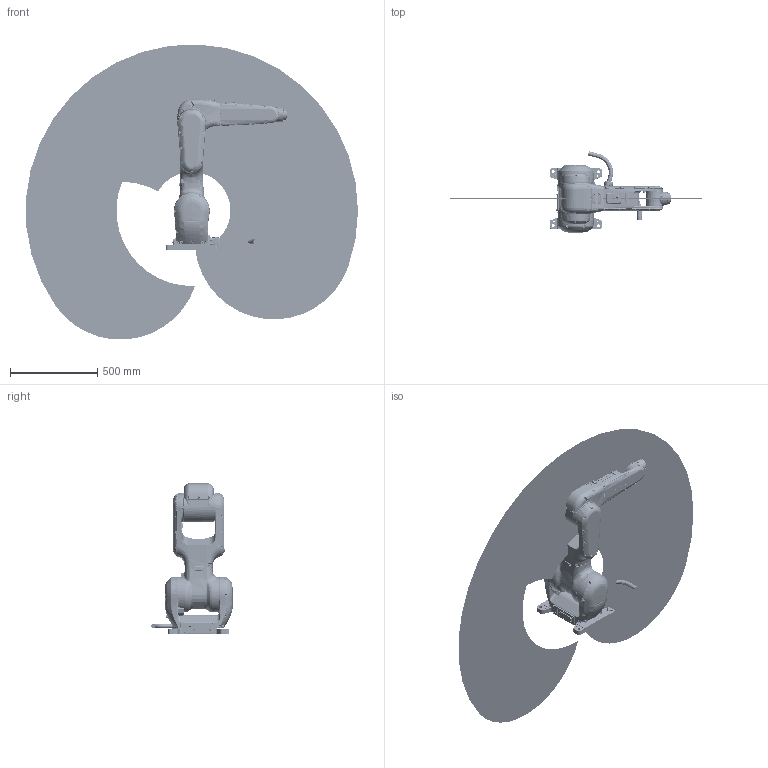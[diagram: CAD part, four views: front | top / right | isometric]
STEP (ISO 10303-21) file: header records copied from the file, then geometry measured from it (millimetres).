
FILE_DESCRIPTION(/* description */ (''),/* implementation_level */ '2;1');
FILE_NAME(/* name */ 'NB12s／_-1609 简化模型(20220421).stp',/* time_stamp */ '2022-04-21T13:48:38+08:00',/* author */ (''),/* organization */ (''),/* preprocessor_version */ 'ST-DEVELOPER v16',/* originating_system */ 'SIEMENS PLM Software NX 10.0',/* authorisation */ '');
FILE_SCHEMA (('CONFIG_CONTROL_DESIGN'));
Products named in the file (8): NB12s-3DWork-B; NB12-shuchu-A; NB12-shouwan-A; NB12-xiaobiqian-Clogo; NB12-xiaobihou-B; NB12-dabi-B; NB12-base-B; NB12s／_-1609 简化模型(2022042
1)
Assembly tree (7 placements, depth 2):
  NB12s／_-1609 简化模型(2022042
1)
    NB12-base-B
    NB12-dabi-B
    NB12-xiaobihou-B
    NB12-xiaobiqian-Clogo
    NB12-shouwan-A
    NB12-shuchu-A
    NB12s-3DWork-B
Bounding box: 1903 x 467.53 x 1690.81 mm (x, y, z)
Volume: 40935568.7 mm3; surface area: 3999547.6 mm2
Topology: 8 solids, 89 shells, 9264 faces, 21677 edges, 12782 vertices
Faces by surface type: plane 3688, cylinder 1932, cone 1384, bspline 1048, torus 823, extrusion 323, sphere 58, revolution 8
Full cylindrical faces by diameter (mm): 3.3 x6, 3.5 x4, 3.838 x4, 4.2 x13, 4.5 x4, 5 x1, 5.5 x28, 6.5 x16, 7 x32, 9.728 x1, 10.272 x1, 11.2 x1, 14 x2, 20 x2, 25 x2, 40 x1, 41.226 x2, 47.5 x2, 49.55 x4, 50 x2, 60 x2, 65 x1, 72.2 x1, 77 x1, 96 x1, 100 x6, 164 x1, 170 x1
Entity records: 376840 total; most frequent: CARTESIAN_POINT 177209, ORIENTED_EDGE 41740, DIRECTION 39662, EDGE_CURVE 20873, AXIS2_PLACEMENT_3D 15538, VERTEX_POINT 12686, EDGE_LOOP 10319, ADVANCED_FACE 9263
